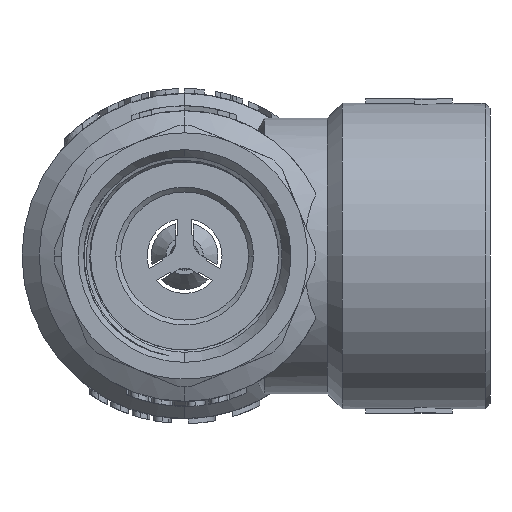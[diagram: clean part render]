
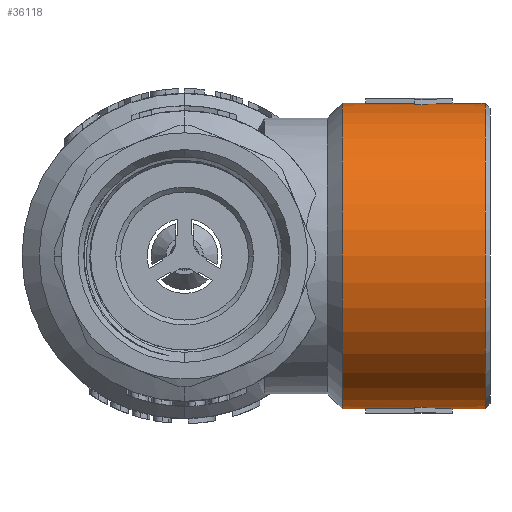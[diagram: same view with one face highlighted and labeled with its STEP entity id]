
A CAD part, front view. The second image highlights one B-rep face of the part: STEP entity #36118.
In plain terms, the highlighted cylindrical face has radius 15.5 mm (diameter 31 mm), a partial arc.
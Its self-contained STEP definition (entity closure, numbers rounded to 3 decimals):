
#531 = DIRECTION ( 'NONE',  ( 0., 0., 1. ) ) ;
#610 = EDGE_CURVE ( 'NONE', #29453, #878, #16783, .T. ) ;
#878 = VERTEX_POINT ( 'NONE', #6650 ) ;
#889 = ORIENTED_EDGE ( 'NONE', *, *, #6826, .T. ) ;
#1202 = AXIS2_PLACEMENT_3D ( 'NONE', #32119, #35653, #46466 ) ;
#1361 = DIRECTION ( 'NONE',  ( -1., 0., 0. ) ) ;
#1516 = CARTESIAN_POINT ( 'NONE',  ( 25.913, -0.736, -15.5 ) ) ;
#1684 = CARTESIAN_POINT ( 'NONE',  ( 0., 0., 15.5 ) ) ;
#1739 = CARTESIAN_POINT ( 'NONE',  ( 24.641, -1.471, -15.448 ) ) ;
#1867 = EDGE_CURVE ( 'NONE', #15324, #12030, #42845, .T. ) ;
#1873 = VERTEX_POINT ( 'NONE', #4879 ) ;
#1899 = VERTEX_POINT ( 'NONE', #31451 ) ;
#2850 = DIRECTION ( 'NONE',  ( -1., 0., 0. ) ) ;
#3193 = ORIENTED_EDGE ( 'NONE', *, *, #5579, .T. ) ;
#4879 = CARTESIAN_POINT ( 'NONE',  ( 18.389, 0., 15.5 ) ) ;
#5001 = DIRECTION ( 'NONE',  ( -1., 0., 0. ) ) ;
#5132 = DIRECTION ( 'NONE',  ( 0., 0., -1. ) ) ;
#5158 = VECTOR ( 'NONE', #5001, 1000. ) ;
#5570 = EDGE_CURVE ( 'NONE', #35952, #15324, #38488, .T. ) ;
#5579 = EDGE_CURVE ( 'NONE', #12176, #43872, #35175, .T. ) ;
#5612 = CARTESIAN_POINT ( 'NONE',  ( 24.641, -1.471, 15.448 ) ) ;
#6202 = DIRECTION ( 'NONE',  ( -1., 0., 0. ) ) ;
#6327 = CYLINDRICAL_SURFACE ( 'NONE', #45222, 15.5 ) ;
#6650 = CARTESIAN_POINT ( 'NONE',  ( 30.5, 0., 15.5 ) ) ;
#6826 = EDGE_CURVE ( 'NONE', #42270, #27081, #12092, .T. ) ;
#7383 = ORIENTED_EDGE ( 'NONE', *, *, #27880, .T. ) ;
#7665 = CARTESIAN_POINT ( 'NONE',  ( 23.378, -2.2, 15.343 ) ) ;
#7819 = CARTESIAN_POINT ( 'NONE',  ( 18.389, 0., 0. ) ) ;
#8183 = ORIENTED_EDGE ( 'NONE', *, *, #29100, .F. ) ;
#8270 = CARTESIAN_POINT ( 'NONE',  ( 0., 0., 0. ) ) ;
#8412 = AXIS2_PLACEMENT_3D ( 'NONE', #14044, #13814, #24893 ) ;
#8591 = DIRECTION ( 'NONE',  ( -1., 0., 0. ) ) ;
#8598 = EDGE_CURVE ( 'NONE', #1873, #43031, #33935, .T. ) ;
#8913 = CARTESIAN_POINT ( 'NONE',  ( 27.189, 0., 15.5 ) ) ;
#9276 = CARTESIAN_POINT ( 'NONE',  ( 30.5, 0., -15.5 ) ) ;
#9298 = LINE ( 'NONE', #23694, #41008 ) ;
#10736 = DIRECTION ( 'NONE',  ( -1., 0., 0. ) ) ;
#10781 = ORIENTED_EDGE ( 'NONE', *, *, #41334, .T. ) ;
#12030 = VERTEX_POINT ( 'NONE', #29718 ) ;
#12092 =( BOUNDED_CURVE ( )  B_SPLINE_CURVE ( 3, ( #8913, #29900, #5612, #29660 ),
 .UNSPECIFIED., .F., .F. ) 
 B_SPLINE_CURVE_WITH_KNOTS ( ( 4, 4 ),
 ( 4.712, 4.855 ),
 .UNSPECIFIED. ) 
 CURVE ( )  GEOMETRIC_REPRESENTATION_ITEM ( )  RATIONAL_B_SPLINE_CURVE ( ( 1., 0.998, 0.998, 1. ) ) 
 REPRESENTATION_ITEM ( '' )  );
#12176 = VERTEX_POINT ( 'NONE', #17698 ) ;
#12434 = DIRECTION ( 'NONE',  ( 0., 0., 1. ) ) ;
#13814 = DIRECTION ( 'NONE',  ( -1., 0., 0. ) ) ;
#13986 = VECTOR ( 'NONE', #2850, 1000. ) ;
#14044 = CARTESIAN_POINT ( 'NONE',  ( 23.378, 0., 0. ) ) ;
#15324 = VERTEX_POINT ( 'NONE', #42980 ) ;
#15332 = CARTESIAN_POINT ( 'NONE',  ( 0., 0., -15.5 ) ) ;
#15560 = ORIENTED_EDGE ( 'NONE', *, *, #18618, .F. ) ;
#16257 = FACE_OUTER_BOUND ( 'NONE', #40410, .T. ) ;
#16584 = CARTESIAN_POINT ( 'NONE',  ( 27.189, 0., 15.5 ) ) ;
#16783 = CIRCLE ( 'NONE', #19769, 15.5 ) ;
#16893 = ORIENTED_EDGE ( 'NONE', *, *, #37063, .F. ) ;
#16994 = ORIENTED_EDGE ( 'NONE', *, *, #8598, .T. ) ;
#17698 = CARTESIAN_POINT ( 'NONE',  ( 23.378, -1.1, 15.461 ) ) ;
#18138 = ORIENTED_EDGE ( 'NONE', *, *, #27181, .T. ) ;
#18618 = EDGE_CURVE ( 'NONE', #1899, #23101, #19378, .T. ) ;
#18909 = CARTESIAN_POINT ( 'NONE',  ( 0., 0., -15.5 ) ) ;
#19242 = VECTOR ( 'NONE', #6202, 1000. ) ;
#19378 = LINE ( 'NONE', #18909, #5158 ) ;
#19769 = AXIS2_PLACEMENT_3D ( 'NONE', #21771, #10736, #43198 ) ;
#20357 = CARTESIAN_POINT ( 'NONE',  ( 23.378, -2.2, -15.343 ) ) ;
#20798 = CARTESIAN_POINT ( 'NONE',  ( 0., -1.1, -15.461 ) ) ;
#21239 = EDGE_CURVE ( 'NONE', #27081, #12176, #31736, .T. ) ;
#21300 = AXIS2_PLACEMENT_3D ( 'NONE', #42112, #27041, #5132 ) ;
#21771 = CARTESIAN_POINT ( 'NONE',  ( 30.5, 0., 0. ) ) ;
#23101 = VERTEX_POINT ( 'NONE', #45703 ) ;
#23547 = DIRECTION ( 'NONE',  ( -1., 0., 0. ) ) ;
#23694 = CARTESIAN_POINT ( 'NONE',  ( 0., 0., 15.5 ) ) ;
#23929 =( BOUNDED_CURVE ( )  B_SPLINE_CURVE ( 3, ( #20357, #1739, #1516, #31206 ),
 .UNSPECIFIED., .F., .T. ) 
 B_SPLINE_CURVE_WITH_KNOTS ( ( 4, 4 ),
 ( 1.428, 1.571 ),
 .UNSPECIFIED. ) 
 CURVE ( )  GEOMETRIC_REPRESENTATION_ITEM ( )  RATIONAL_B_SPLINE_CURVE ( ( 1., 0.998, 0.998, 1. ) ) 
 REPRESENTATION_ITEM ( '' )  );
#23996 = ORIENTED_EDGE ( 'NONE', *, *, #31029, .T. ) ;
#24363 = DIRECTION ( 'NONE',  ( 1., 0., 0. ) ) ;
#24893 = DIRECTION ( 'NONE',  ( 0., 0., 1. ) ) ;
#24936 = DIRECTION ( 'NONE',  ( -1., 0., 0. ) ) ;
#26569 = CARTESIAN_POINT ( 'NONE',  ( 23.378, 0., 0. ) ) ;
#26918 = ORIENTED_EDGE ( 'NONE', *, *, #21239, .T. ) ;
#27041 = DIRECTION ( 'NONE',  ( -1., 0., 0. ) ) ;
#27081 = VERTEX_POINT ( 'NONE', #7665 ) ;
#27181 = EDGE_CURVE ( 'NONE', #12030, #29579, #23929, .T. ) ;
#27593 = ORIENTED_EDGE ( 'NONE', *, *, #5570, .T. ) ;
#27880 = EDGE_CURVE ( 'NONE', #1899, #35952, #31902, .T. ) ;
#28122 = AXIS2_PLACEMENT_3D ( 'NONE', #7819, #40321, #531 ) ;
#28318 = CARTESIAN_POINT ( 'NONE',  ( 0., -1.1, 15.461 ) ) ;
#28439 = DIRECTION ( 'NONE',  ( 0., 0., 1. ) ) ;
#29100 = EDGE_CURVE ( 'NONE', #29453, #29579, #37434, .T. ) ;
#29453 = VERTEX_POINT ( 'NONE', #9276 ) ;
#29579 = VERTEX_POINT ( 'NONE', #38986 ) ;
#29660 = CARTESIAN_POINT ( 'NONE',  ( 23.378, -2.2, 15.343 ) ) ;
#29718 = CARTESIAN_POINT ( 'NONE',  ( 23.378, -2.2, -15.343 ) ) ;
#29900 = CARTESIAN_POINT ( 'NONE',  ( 25.913, -0.736, 15.5 ) ) ;
#31029 = EDGE_CURVE ( 'NONE', #43872, #1873, #35808, .T. ) ;
#31206 = CARTESIAN_POINT ( 'NONE',  ( 27.189, 0., -15.5 ) ) ;
#31451 = CARTESIAN_POINT ( 'NONE',  ( 18.389, 0., -15.5 ) ) ;
#31736 = CIRCLE ( 'NONE', #8412, 15.5 ) ;
#31902 = CIRCLE ( 'NONE', #28122, 15.5 ) ;
#32119 = CARTESIAN_POINT ( 'NONE',  ( 18.389, 0., 0. ) ) ;
#32325 = AXIS2_PLACEMENT_3D ( 'NONE', #26569, #1361, #12434 ) ;
#32429 = ORIENTED_EDGE ( 'NONE', *, *, #610, .T. ) ;
#33935 = LINE ( 'NONE', #1684, #13986 ) ;
#35175 = LINE ( 'NONE', #28318, #19242 ) ;
#35653 = DIRECTION ( 'NONE',  ( -1., 0., 0. ) ) ;
#35808 = CIRCLE ( 'NONE', #1202, 15.5 ) ;
#35952 = VERTEX_POINT ( 'NONE', #39398 ) ;
#36118 = ADVANCED_FACE ( 'NONE', ( #16257 ), #6327, .T. ) ;
#36564 = VECTOR ( 'NONE', #24363, 1000. ) ;
#37063 = EDGE_CURVE ( 'NONE', #23101, #43031, #45254, .T. ) ;
#37434 = LINE ( 'NONE', #15332, #37813 ) ;
#37813 = VECTOR ( 'NONE', #23547, 1000. ) ;
#38488 = LINE ( 'NONE', #20798, #36564 ) ;
#38986 = CARTESIAN_POINT ( 'NONE',  ( 27.189, 0., -15.5 ) ) ;
#39398 = CARTESIAN_POINT ( 'NONE',  ( 18.389, -1.1, -15.461 ) ) ;
#40194 = ORIENTED_EDGE ( 'NONE', *, *, #1867, .T. ) ;
#40321 = DIRECTION ( 'NONE',  ( -1., 0., 0. ) ) ;
#40410 = EDGE_LOOP ( 'NONE', ( #8183, #32429, #10781, #889, #26918, #3193, #23996, #16994, #16893, #15560, #7383, #27593, #40194, #18138 ) ) ;
#40539 = CARTESIAN_POINT ( 'NONE',  ( 16., 0., 15.5 ) ) ;
#41008 = VECTOR ( 'NONE', #8591, 1000. ) ;
#41334 = EDGE_CURVE ( 'NONE', #878, #42270, #9298, .T. ) ;
#42112 = CARTESIAN_POINT ( 'NONE',  ( 16., 0., 0. ) ) ;
#42270 = VERTEX_POINT ( 'NONE', #16584 ) ;
#42845 = CIRCLE ( 'NONE', #32325, 15.5 ) ;
#42980 = CARTESIAN_POINT ( 'NONE',  ( 23.378, -1.1, -15.461 ) ) ;
#43031 = VERTEX_POINT ( 'NONE', #40539 ) ;
#43198 = DIRECTION ( 'NONE',  ( 0., 0., 1. ) ) ;
#43872 = VERTEX_POINT ( 'NONE', #46509 ) ;
#45222 = AXIS2_PLACEMENT_3D ( 'NONE', #8270, #24936, #28439 ) ;
#45254 = CIRCLE ( 'NONE', #21300, 15.5 ) ;
#45703 = CARTESIAN_POINT ( 'NONE',  ( 16., 0., -15.5 ) ) ;
#46466 = DIRECTION ( 'NONE',  ( 0., 0., 1. ) ) ;
#46509 = CARTESIAN_POINT ( 'NONE',  ( 18.389, -1.1, 15.461 ) ) ;
